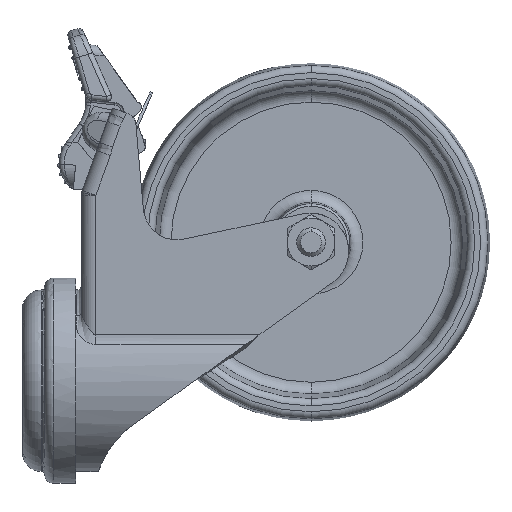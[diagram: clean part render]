
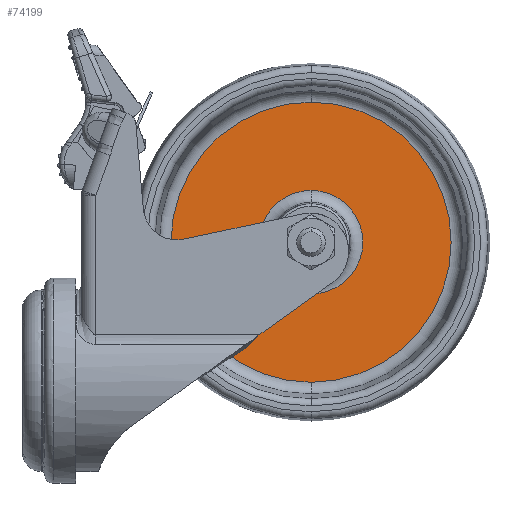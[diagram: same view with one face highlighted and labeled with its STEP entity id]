
A CAD part, left-side view. The second image highlights one B-rep face of the part: STEP entity #74199.
In plain terms, the highlighted planar face has unit normal (-1, 0, 0).
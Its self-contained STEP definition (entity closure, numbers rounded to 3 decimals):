
#15177 = EDGE_CURVE ( 'NONE', #53414, #53428, #41522, .T. ) ;
#15181 = EDGE_CURVE ( 'NONE', #53560, #53447, #41525, .T. ) ;
#15754 = EDGE_CURVE ( 'NONE', #53447, #53560, #41784, .T. ) ;
#15777 = EDGE_CURVE ( 'NONE', #53428, #53414, #41797, .T. ) ;
#22849 = AXIS2_PLACEMENT_3D ( 'NONE', #59632, #59641, #59642 ) ;
#32076 = EDGE_LOOP ( 'NONE', ( #79610, #79611 ) ) ;
#32078 = EDGE_LOOP ( 'NONE', ( #79608, #79609 ) ) ;
#41522 = CIRCLE ( 'NONE', #77796, 10.842 ) ;
#41525 = CIRCLE ( 'NONE', #77798, 29.315 ) ;
#41784 = CIRCLE ( 'NONE', #77865, 29.315 ) ;
#41797 = CIRCLE ( 'NONE', #77893, 10.842 ) ;
#44747 = CARTESIAN_POINT ( 'NONE',  ( -2.5, 0., 0. ) ) ;
#44749 = CARTESIAN_POINT ( 'NONE',  ( -2.5, 0., 0. ) ) ;
#44750 = DIRECTION ( 'NONE',  ( -1., 0., 0. ) ) ;
#44751 = DIRECTION ( 'NONE',  ( 0., 0., 1. ) ) ;
#44756 = DIRECTION ( 'NONE',  ( -1., 0., 0. ) ) ;
#44757 = DIRECTION ( 'NONE',  ( 0., 0., 1. ) ) ;
#45484 = FACE_BOUND ( 'NONE', #32078, .T. ) ;
#45498 = FACE_OUTER_BOUND ( 'NONE', #32076, .T. ) ;
#50240 = CARTESIAN_POINT ( 'NONE',  ( -2.5, 0., -29.315 ) ) ;
#53414 = VERTEX_POINT ( 'NONE', #68174 ) ;
#53428 = VERTEX_POINT ( 'NONE', #68188 ) ;
#53447 = VERTEX_POINT ( 'NONE', #68207 ) ;
#53560 = VERTEX_POINT ( 'NONE', #50240 ) ;
#59632 = CARTESIAN_POINT ( 'NONE',  ( -2.5, 29.315, 0. ) ) ;
#59633 = PLANE ( 'NONE',  #22849 ) ;
#59641 = DIRECTION ( 'NONE',  ( 1., 0., 0. ) ) ;
#59642 = DIRECTION ( 'NONE',  ( 0., 0., -1. ) ) ;
#68174 = CARTESIAN_POINT ( 'NONE',  ( -2.5, 0., -10.842 ) ) ;
#68188 = CARTESIAN_POINT ( 'NONE',  ( -2.5, 0., 10.842 ) ) ;
#68207 = CARTESIAN_POINT ( 'NONE',  ( -2.5, 0., 29.315 ) ) ;
#74199 = ADVANCED_FACE ( 'NONE', ( #45484, #45498 ), #59633, .F. ) ;
#75653 = CARTESIAN_POINT ( 'NONE',  ( -2.5, 0., 0. ) ) ;
#75661 = DIRECTION ( 'NONE',  ( -1., 0., 0. ) ) ;
#75662 = DIRECTION ( 'NONE',  ( 0., 0., 1. ) ) ;
#75690 = CARTESIAN_POINT ( 'NONE',  ( -2.5, 0., 0. ) ) ;
#75696 = DIRECTION ( 'NONE',  ( -1., 0., 0. ) ) ;
#75697 = DIRECTION ( 'NONE',  ( 0., 0., 1. ) ) ;
#77796 = AXIS2_PLACEMENT_3D ( 'NONE', #44747, #44750, #44751 ) ;
#77798 = AXIS2_PLACEMENT_3D ( 'NONE', #44749, #44756, #44757 ) ;
#77865 = AXIS2_PLACEMENT_3D ( 'NONE', #75653, #75661, #75662 ) ;
#77893 = AXIS2_PLACEMENT_3D ( 'NONE', #75690, #75696, #75697 ) ;
#79608 = ORIENTED_EDGE ( 'NONE', *, *, #15777, .F. ) ;
#79609 = ORIENTED_EDGE ( 'NONE', *, *, #15177, .F. ) ;
#79610 = ORIENTED_EDGE ( 'NONE', *, *, #15754, .T. ) ;
#79611 = ORIENTED_EDGE ( 'NONE', *, *, #15181, .T. ) ;
